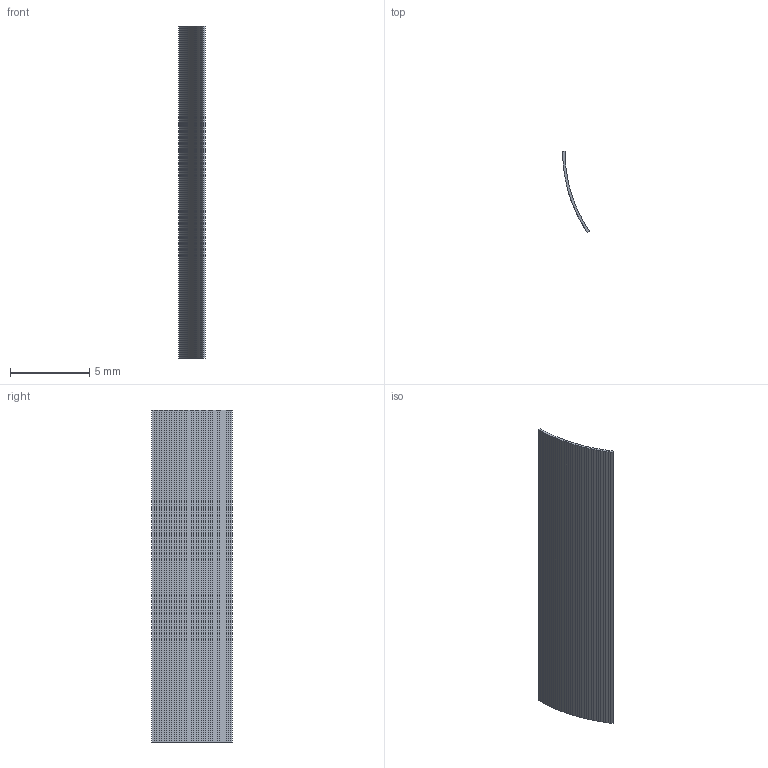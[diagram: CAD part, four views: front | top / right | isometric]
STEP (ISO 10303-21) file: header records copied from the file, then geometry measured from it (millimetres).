
FILE_DESCRIPTION(('Open CASCADE Model'),'2;1');
FILE_NAME('Open CASCADE Shape Model','2026-10-04T01:02:34',('Author'),( 'Open CASCADE'),'Open CASCADE STEP processor 8.0','Open CASCADE 8.0' ,'Unknown');
FILE_SCHEMA(('AUTOMOTIVE_DESIGN { 1 0 10303 214 1 1 1 1 }'));
Length unit declared in the file: millimetre
Products named in the file (1): Open CASCADE STEP translator 8.0 387
Bounding box: 1.68 x 5.12 x 21 mm (x, y, z)
Volume: 17 mm3; surface area: 234.2 mm2
Topology: 1 solids, 1 shells, 72 faces, 210 edges, 140 vertices
Faces by surface type: plane 72
Entity records: 5074 total; most frequent: CARTESIAN_POINT 843, DIRECTION 776, LINE 630, VECTOR 630, ORIENTED_EDGE 420, PCURVE 420, DEFINITIONAL_REPRESENTATION 420, EDGE_CURVE 210
